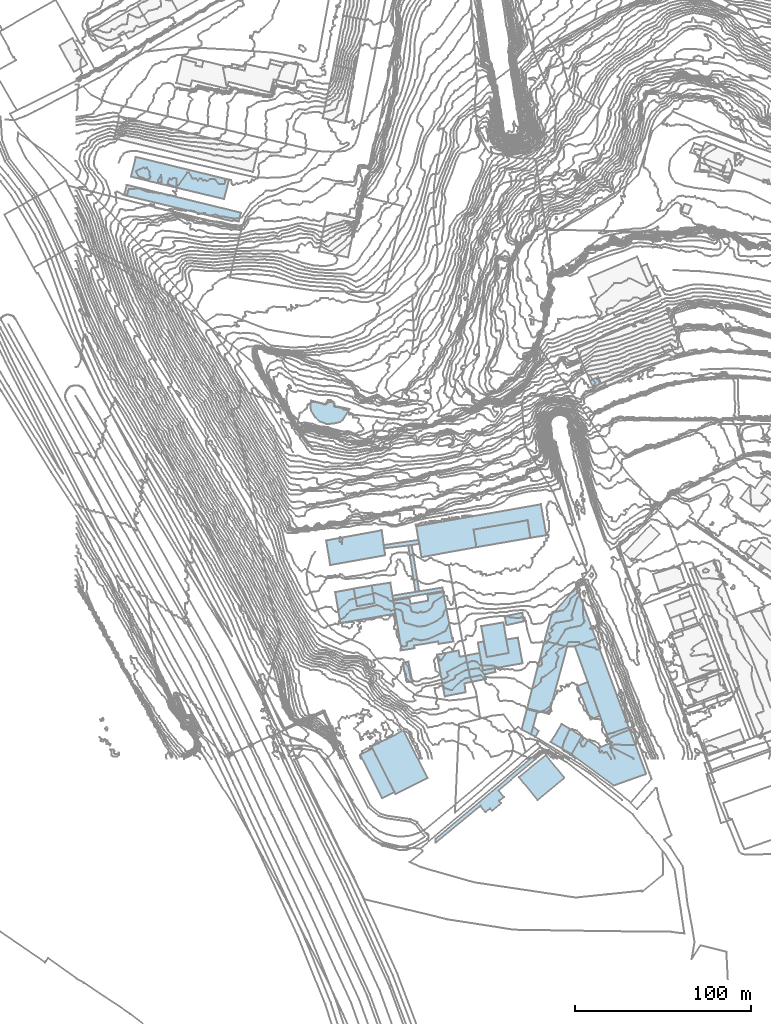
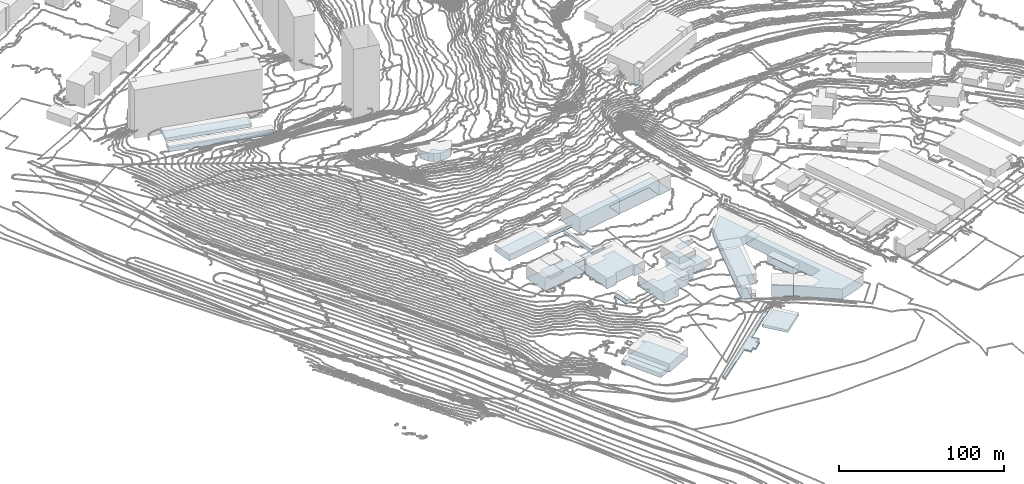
# Not in any storey, part 1 of 419: 30 footings.
"""IFC2X3 model written with IfcOpenShell, lengths in metres."""

from ifc_helpers import new_model, si_unit, frame, origin_with_axes, place, context, subcontext, project, faceted_brep, element, save


model = new_model("IFC2X3")

# Units and contexts
model_context = context("Model", 3, precision=1e-05, world=origin_with_axes())
body_context = subcontext(model_context, "Body", "Model", "MODEL_VIEW")
ifc_project = project(units=[si_unit("AREAUNIT", "SQUARE_METRE"), si_unit("LENGTHUNIT", "METRE")], contexts=[model_context])

# Footings
footing_1_placement = place(None, frame((133.1920204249, 199.1976909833, 52.7420005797), z_axis=(0.0, 0.0, 1.0), x_axis=(1.0, 0.0, 0.0)))
element("IfcFooting", 1, at=footing_1_placement, Name="Sol 0", PredefinedType="STRIP_FOOTING", context=body_context, shape_type="Brep", body=[
    faceted_brep([(0.2999999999, -2.0, 0.0), (0.0, 0.0, 0.0), (0.3999999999, 3.2999999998, 0.0), (5.2999999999, -8.6000000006, 0.0), (2.7999999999, -6.4000000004, 0.0), (13.1, -9.8000000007, 0.0), (9.1, -10.0, 0.0), (18.5, -7.4000000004, 0.0), (16.7999999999, -8.9000000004, 0.0), (13.5, 0.2999999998, 0.0), (22.2, -1.5, 0.0), (11.3999999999, 3.5999999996, 0.0), (13.2, 2.5999999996, 0.0), (8.2999999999, 1.2999999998, 0.0), (9.8999999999, 3.5, 0.0)], [[[0, 1, 2]], [[3, 4, 0]], [[5, 6, 3]], [[7, 8, 5]], [[9, 10, 7]], [[11, 12, 9]], [[13, 14, 11]], [[0, 2, 13]], [[5, 3, 0]], [[9, 7, 5]], [[13, 11, 9]], [[5, 0, 13]], [[13, 9, 5]]]),
])
footing_2_placement = place(None, frame((188.8920204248, 120.0976909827, 24.4439993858), z_axis=(0.0, 0.0, 1.0), x_axis=(1.0, 0.0, 0.0)))
element("IfcFooting", 2, at=footing_2_placement, Name="Sol 0", PredefinedType="STRIP_FOOTING", context=body_context, shape_type="Brep", body=[
    faceted_brep([(2.0, 0.2000000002, 0.0), (6.2, -26.0, 0.0), (4.1, -26.2999999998, 0.0), (0.0, 0.0, 0.0)], [[[0, 1, 2]], [[2, 3, 0]]]),
])
footing_3_placement = place(None, frame((180.3920204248, 88.6976909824, 21.1200008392), z_axis=(0.0, 0.0, 1.0), x_axis=(1.0, 0.0, 0.0)))
element("IfcFooting", 3, at=footing_3_placement, Name="Sol 0", PredefinedType="STRIP_FOOTING", context=body_context, shape_type="Brep", body=[
    faceted_brep([(4.6, -27.5999999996, 0.0), (1.2999999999, -8.0999999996, 0.0), (0.0, 0.0, 0.0), (4.1, -28.3999999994, 0.0), (4.0, -27.7000000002, 0.0), (11.7999999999, -25.5999999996, 0.0), (12.0, -27.0999999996, 0.0), (34.2, -23.2999999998, 0.0), (25.7999999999, -24.7000000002, 0.0), (25.5, -23.2999999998, 0.0), (33.5, -21.5, 0.0), (33.8999999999, -21.3999999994, 0.0), (28.8999999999, 4.9000000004, 0.0), (29.0, 4.2000000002, 0.0), (28.5, 4.2000000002, 0.0), (19.7999999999, -0.0999999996, 0.0), (19.5, 3.2999999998, 0.0), (9.1, 1.5, 0.0), (9.8999999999, -1.8999999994, 0.0)], [[[0, 1, 2]], [[3, 4, 0]], [[5, 6, 3]], [[7, 8, 9]], [[10, 11, 7]], [[12, 13, 14]], [[15, 16, 12]], [[2, 17, 18]], [[5, 3, 0]], [[10, 7, 9]], [[15, 12, 14]], [[0, 2, 18]], [[10, 9, 5]], [[15, 14, 10]], [[0, 18, 15]], [[15, 10, 5]], [[5, 0, 15]]]),
])
footing_4_placement = place(None, frame((30.9920204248, 329.8976909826, 20.8107998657), z_axis=(0.0, 0.0, 1.0), x_axis=(1.0, 0.0, 0.0)))
element("IfcFooting", 4, at=footing_4_placement, Name="Sol 0", PredefinedType="STRIP_FOOTING", context=body_context, shape_type="Brep", body=[
    faceted_brep([(53.0, -12.7000000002, 0.0), (0.0, 0.0, 0.0), (2.7999999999, 11.2999999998, 0.0), (55.9, -1.7000000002, 0.0)], [[[0, 1, 2]], [[2, 3, 0]]]),
])
footing_5_placement = place(None, frame((258.6920204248, 12.3976909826, 17.0899996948), z_axis=(0.0, 0.0, 1.0), x_axis=(1.0, 0.0, 0.0)))
element("IfcFooting", 5, at=footing_5_placement, Name="Sol 0", PredefinedType="STRIP_FOOTING", context=body_context, shape_type="Brep", body=[
    faceted_brep([(4.3, 2.0, 0.0), (2.5, -1.2000000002, 0.0), (0.0, 0.0, 0.0), (1.3, 4.5, 0.0)], [[[0, 1, 2]], [[2, 3, 0]]]),
])
footing_6_placement = place(None, frame((182.3920204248, 15.2976909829, 10.0691999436), z_axis=(0.0, 0.0, 1.0), x_axis=(1.0, 0.0, 0.0)))
element("IfcFooting", 6, at=footing_6_placement, Name="Sol 0", PredefinedType="STRIP_FOOTING", context=body_context, shape_type="Brep", body=[
    faceted_brep([(2.2999999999, 1.1999999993, 0.0), (3.2999999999, -0.9000000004, 0.0), (1.0, -2.0, 0.0), (0.0, 0.0, 0.0)], [[[0, 1, 2]], [[2, 3, 0]]]),
])
footing_7_placement = place(None, frame((174.9920204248, 120.2976909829, 26.5487995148), z_axis=(0.0, 0.0, 1.0), x_axis=(1.0, 0.0, 0.0)))
element("IfcFooting", 7, at=footing_7_placement, Name="Sol 0", PredefinedType="STRIP_FOOTING", context=body_context, shape_type="Brep", body=[
    faceted_brep([(20.2, 0.6999999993, 0.0), (15.9, 0.0, 0.0), (0.2, -1.9000000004, 0.0), (0.0, 0.0, 0.0), (19.7, 2.8999999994, 0.0)], [[[0, 1, 2]], [[3, 4, 0]], [[0, 2, 3]]]),
])
footing_8_placement = place(None, frame((157.8920204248, 95.4976909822, 23.1267998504), z_axis=(0.0, 0.0, 1.0), x_axis=(1.0, 0.0, 0.0)))
element("IfcFooting", 8, at=footing_8_placement, Name="Sol 0", PredefinedType="STRIP_FOOTING", context=body_context, shape_type="Brep", body=[
    faceted_brep([(1.7999999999, -10.0, 0.0), (0.0, 0.0, 0.0), (10.2999999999, 1.8000000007, 0.0), (11.7999999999, -8.2999999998, 0.0)], [[[0, 1, 2]], [[2, 3, 0]]]),
])
footing_9_placement = place(None, frame((230.3920204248, 74.0976909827, 20.3390001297), z_axis=(0.0, 0.0, 1.0), x_axis=(1.0, 0.0, 0.0)))
element("IfcFooting", 9, at=footing_9_placement, Name="Sol 0", PredefinedType="STRIP_FOOTING", context=body_context, shape_type="Brep", body=[
    faceted_brep([(0.0, 0.0, 0.0), (12.7, 2.2000000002, 0.0), (14.2999999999, -7.6000000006, 0.0), (15.7, -15.2999999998, 0.0), (3.2, -17.5, 0.0)], [[[0, 1, 2]], [[3, 4, 0]], [[0, 2, 3]]]),
])
footing_10_placement = place(None, frame((161.5920204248, 0.8976909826, 10.0303997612), z_axis=(0.0, 0.0, 1.0), x_axis=(1.0, 0.0, 0.0)))
element("IfcFooting", 10, at=footing_10_placement, Name="Sol 0", PredefinedType="STRIP_FOOTING", context=body_context, shape_type="Brep", body=[
    faceted_brep([(6.9, 3.7000000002, 0.0), (19.5, -21.2000000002, 0.0), (12.5, -24.7000000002, 0.0), (0.0, 0.0, 0.0)], [[[0, 1, 2]], [[2, 3, 0]]]),
])
footing_11_placement = place(None, frame((292.3920204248, 213.8976909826, 42.5580001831), z_axis=(0.0, 0.0, 1.0), x_axis=(1.0, 0.0, 0.0)))
element("IfcFooting", 11, at=footing_11_placement, Name="Sol 0", PredefinedType="STRIP_FOOTING", context=body_context, shape_type="Brep", body=[
    faceted_brep([(1.7999999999, -3.7000000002, 0.0), (0.0, 0.0, 0.0), (4.6, 2.2000000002, 0.0), (6.3999999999, -1.5, 0.0)], [[[0, 1, 2]], [[2, 3, 0]]]),
])
footing_12_placement = place(None, frame((266.3920204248, 65.6976909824, 18.6400001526), z_axis=(0.0, 0.0, 1.0), x_axis=(1.0, 0.0, 0.0)))
element("IfcFooting", 12, at=footing_12_placement, Name="Sol 0", PredefinedType="STRIP_FOOTING", context=body_context, shape_type="Brep", body=[
    faceted_brep([(12.8999999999, -3.2999999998, 0.0), (0.0, 0.0, 0.0), (3.8999999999, 14.4000000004, 0.0), (29.2999999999, 1.2999999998, 0.0), (17.2999999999, -3.0, 0.0), (18.2, 31.2999999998, 0.0)], [[[0, 1, 2]], [[3, 4, 0]], [[2, 5, 3]], [[3, 0, 2]]]),
])
footing_13_placement = place(None, frame((269.9920204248, 8.0976909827, 17.6167998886), z_axis=(0.0, 0.0, 1.0), x_axis=(1.0, 0.0, 0.0)))
element("IfcFooting", 13, at=footing_13_placement, Name="Sol 0", PredefinedType="STRIP_FOOTING", context=body_context, shape_type="Brep", body=[
    faceted_brep([(17.6, 3.3999999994, 0.0), (11.7, -6.9000000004, 0.0), (0.0, 0.0, 0.0), (6.1, 10.2999999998, 0.0)], [[[0, 1, 2]], [[2, 3, 0]]]),
])
footing_14_placement = place(None, frame((256.4920204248, 27.2976909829, 17.81629982), z_axis=(0.0, 0.0, 1.0), x_axis=(1.0, 0.0, 0.0)))
element("IfcFooting", 14, at=footing_14_placement, Name="Sol 0", PredefinedType="STRIP_FOOTING", context=body_context, shape_type="Brep", body=[
    faceted_brep([(12.4, -3.2000000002, 0.0), (0.0, 0.0, 0.0), (9.9, 38.3999999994, 0.0), (22.7999999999, 35.0999999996, 0.0)], [[[0, 1, 2]], [[2, 3, 0]]]),
])
footing_15_placement = place(None, frame((285.3920204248, 40.0976909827, 17.896000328), z_axis=(0.0, 0.0, 1.0), x_axis=(1.0, 0.0, 0.0)))
element("IfcFooting", 15, at=footing_15_placement, Name="Sol 0", PredefinedType="STRIP_FOOTING", context=body_context, shape_type="Brep", body=[
    faceted_brep([(0.0, 0.0, 0.0), (5.7, 2.2999999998, 0.0), (12.6, -17.0, 0.0), (7.2999999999, -19.1000000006, 0.0)], [[[0, 1, 2]], [[2, 3, 0]]]),
])
footing_16_placement = place(None, frame((253.3920204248, 15.1976909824, 17.2552001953), z_axis=(0.0, 0.0, 1.0), x_axis=(1.0, 0.0, 0.0)))
element("IfcFooting", 16, at=footing_16_placement, Name="Sol 0", PredefinedType="STRIP_FOOTING", context=body_context, shape_type="Brep", body=[
    faceted_brep([(8.8999999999, 10.7000000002, 0.0), (6.6, 1.7000000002, 0.0), (5.2999999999, -2.7999999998, 0.0), (0.0, 0.0, 0.0), (3.1, 12.1000000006, 0.0)], [[[0, 1, 2]], [[3, 4, 0]], [[0, 2, 3]]]),
])
footing_17_placement = place(None, frame((226.0920204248, 129.0976909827, 26.2239994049), z_axis=(0.0, 0.0, 1.0), x_axis=(1.0, 0.0, 0.0)))
element("IfcFooting", 17, at=footing_17_placement, Name="Sol 0", PredefinedType="STRIP_FOOTING", context=body_context, shape_type="Brep", body=[
    faceted_brep([(32.3, -4.7000000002, 0.0), (1.6, -10.0, 0.0), (0.0, 0.0, 0.0), (30.8, 5.2999999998, 0.0)], [[[0, 1, 2]], [[2, 3, 0]]]),
])
footing_18_placement = place(None, frame((251.8920204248, -11.7023090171, 13.2014000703), z_axis=(0.0, 0.0, 1.0), x_axis=(1.0, 0.0, 0.0)))
element("IfcFooting", 18, at=footing_18_placement, Name="Sol 0", PredefinedType="STRIP_FOOTING", context=body_context, shape_type="Brep", body=[
    faceted_brep([(25.7999999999, -0.4000000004, 0.0), (10.7, -13.1000000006, 0.0), (0.0, 0.0, 0.0), (15.3999999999, 12.5, 0.0)], [[[0, 1, 2]], [[2, 3, 0]]]),
])
footing_19_placement = place(None, frame((228.4920204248, 64.7976909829, 19.5300000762), z_axis=(0.0, 0.0, 1.0), x_axis=(1.0, 0.0, 0.0)))
element("IfcFooting", 19, at=footing_19_placement, Name="Sol 0", PredefinedType="STRIP_FOOTING", context=body_context, shape_type="Brep", body=[
    faceted_brep([(17.6, -6.0, 0.0), (16.2, 1.6999999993, 0.0), (22.7999999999, 2.7999999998, 0.0), (0.0, 0.0, 0.0), (3.2999999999, 0.5999999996, 0.0), (5.1, -8.2000000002, 0.0), (25.5, -11.8000000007, 0.0), (2.9, -15.8000000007, 0.0)], [[[0, 1, 2]], [[3, 4, 5]], [[0, 2, 6]], [[7, 3, 5]], [[0, 6, 7]], [[7, 5, 0]]]),
])
footing_20_placement = place(None, frame((167.9920204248, 5.6976909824, 10.0228000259), z_axis=(0.0, 0.0, 1.0), x_axis=(1.0, 0.0, 0.0)))
element("IfcFooting", 20, at=footing_20_placement, Name="Sol 0", PredefinedType="STRIP_FOOTING", context=body_context, shape_type="Brep", body=[
    faceted_brep([(18.2999999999, 9.0, 0.0), (31.9, -17.8999999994, 0.0), (31.5, -18.0999999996, 0.0), (13.6, -27.0999999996, 0.0), (0.0, 0.0, 0.0)], [[[0, 1, 2]], [[3, 4, 0]], [[0, 2, 3]]]),
])
footing_21_placement = place(None, frame((27.1920204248, 319.3976909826, 20.8730007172), z_axis=(0.0, 0.0, 1.0), x_axis=(1.0, 0.0, 0.0)))
element("IfcFooting", 21, at=footing_21_placement, Name="Sol 0", PredefinedType="STRIP_FOOTING", context=body_context, shape_type="Brep", body=[
    faceted_brep([(61.5, -14.7999999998, 0.0), (0.0, 0.0, 0.0), (1.4, 5.9000000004, 0.0), (66.4, -10.0, 0.0), (65.2000000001, -14.9000000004, 0.0), (62.0, -14.2999999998, 0.0)], [[[0, 1, 2]], [[3, 4, 5]], [[5, 0, 2]], [[2, 3, 5]]]),
])
footing_22_placement = place(None, frame((243.7920204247, 79.7976909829, 20.529400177), z_axis=(0.0, 0.0, 1.0), x_axis=(1.0, 0.0, 0.0)))
element("IfcFooting", 22, at=footing_22_placement, Name="Sol 0", PredefinedType="STRIP_FOOTING", context=body_context, shape_type="Brep", body=[
    faceted_brep([(1.0, -5.1000000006, 0.0), (0.0, 0.0, 0.0), (10.0, 2.0, 0.0), (10.9, -2.9000000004, 0.0)], [[[0, 1, 2]], [[2, 3, 0]]]),
])
footing_23_placement = place(None, frame((204.3920204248, -46.9023090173, 13.6460001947), z_axis=(0.0, 0.0, 1.0), x_axis=(1.0, 0.0, 0.0)))
element("IfcFooting", 23, at=footing_23_placement, Name="Sol 0", PredefinedType="STRIP_FOOTING", context=body_context, shape_type="Brep", body=[
    faceted_brep([(59.2999999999, 50.0, 0.0), (61.2, 49.0, 0.0), (35.7999999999, 27.5999999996, 0.0), (0.1, -2.2000000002, 0.0), (0.0, 0.0, 0.0), (31.0, 17.2999999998, 0.0), (28.3999999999, 15.2000000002, 0.0), (25.5, 18.8999999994, 0.0), (37.2, 20.2999999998, 0.0), (32.1, 16.0, 0.0), (38.8999999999, 23.7999999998, 0.0), (36.1, 21.7000000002, 0.0)], [[[0, 1, 2]], [[3, 4, 0]], [[5, 6, 7]], [[8, 9, 5]], [[2, 10, 11]], [[3, 0, 2]], [[8, 5, 7]], [[7, 3, 2]], [[11, 8, 7]], [[7, 2, 11]]]),
])
footing_24_placement = place(None, frame((179.8920204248, 91.4976909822, 24.266900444), z_axis=(0.0, 0.0, 1.0), x_axis=(1.0, 0.0, 0.0)))
element("IfcFooting", 24, at=footing_24_placement, Name="Sol 0", PredefinedType="STRIP_FOOTING", context=body_context, shape_type="Brep", body=[
    faceted_brep([(28.7999999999, 2.6000000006, 0.0), (0.3999999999, -2.1999999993, 0.0), (0.0, 0.0, 0.0), (28.3999999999, 4.6000000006, 0.0)], [[[0, 1, 2]], [[2, 3, 0]]]),
])
footing_25_placement = place(None, frame((142.1920204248, 122.8976909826, 26.5680005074), z_axis=(0.0, 0.0, 1.0), x_axis=(1.0, 0.0, 0.0)))
element("IfcFooting", 25, at=footing_25_placement, Name="Sol 0", PredefinedType="STRIP_FOOTING", context=body_context, shape_type="Brep", body=[
    faceted_brep([(0.0, 0.0, 0.0), (31.6, 5.7999999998, 0.0), (33.0, -4.5, 0.0), (33.6, -8.4000000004, 0.0), (2.3, -14.0, 0.0)], [[[0, 1, 2]], [[3, 4, 0]], [[0, 2, 3]]]),
])
footing_26_placement = place(None, frame((185.8920204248, 53.1976909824, 19.6990001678), z_axis=(0.0, 0.0, 1.0), x_axis=(1.0, 0.0, 0.0)))
element("IfcFooting", 26, at=footing_26_placement, Name="Sol 0", PredefinedType="STRIP_FOOTING", context=body_context, shape_type="Brep", body=[
    faceted_brep([(2.2, -11.0, 0.0), (1.7999999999, -9.7000000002, 0.0), (0.0, 0.0, 0.0), (3.1, 0.7999999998, 0.0), (5.3999999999, -10.7999999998, 0.0)], [[[0, 1, 2]], [[3, 4, 0]], [[0, 2, 3]]]),
])
footing_27_placement = place(None, frame((193.3920204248, 130.9976909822, 26.0479995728), z_axis=(0.0, 0.0, 1.0), x_axis=(1.0, 0.0, 0.0)))
element("IfcFooting", 27, at=footing_27_placement, Name="Sol 0", PredefinedType="STRIP_FOOTING", context=body_context, shape_type="Brep", body=[
    faceted_brep([(34.2999999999, -11.8999999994, 0.0), (3.0, -17.5999999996, 0.0), (1.7999999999, -10.0, 0.0), (74.1, -5.0999999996, 0.0), (65.0, -6.5999999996, 0.0), (63.5, 3.4000000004, 0.0), (0.0, 0.0, 0.0), (71.0, 12.5, 0.0), (32.7, -1.8999999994, 0.0)], [[[0, 1, 2]], [[3, 4, 5]], [[2, 6, 7]], [[8, 0, 2]], [[7, 3, 5]], [[8, 2, 7]], [[7, 5, 8]]]),
])
footing_28_placement = place(None, frame((205.2920204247, 57.8976909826, 17.6740001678), z_axis=(0.0, 0.0, 1.0), x_axis=(1.0, 0.0, 0.0)))
element("IfcFooting", 28, at=footing_28_placement, Name="Sol 0", PredefinedType="STRIP_FOOTING", context=body_context, shape_type="Brep", body=[
    faceted_brep([(12.9, -1.2000000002, 0.0), (24.3, 1.0, 0.0), (26.1000000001, -8.9000000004, 0.0), (0.0, 0.0, 0.0), (12.3, 2.4000000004, 0.0), (16.2000000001, -21.4000000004, 0.0), (4.4, -23.7000000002, 0.0), (27.0, -11.2000000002, 0.0), (27.8, -13.7999999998, 0.0), (15.6000000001, -16.2999999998, 0.0), (32.7000000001, -7.7000000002, 0.0), (33.3, -9.7999999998, 0.0)], [[[0, 1, 2]], [[3, 4, 0]], [[5, 6, 3]], [[7, 8, 9]], [[10, 11, 7]], [[3, 0, 2]], [[9, 5, 3]], [[10, 7, 9]], [[9, 3, 2]], [[2, 10, 9]]]),
])
footing_29_placement = place(None, frame((147.2920204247, 93.4976909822, 22.1154997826), z_axis=(0.0, 0.0, 1.0), x_axis=(1.0, 0.0, 0.0)))
element("IfcFooting", 29, at=footing_29_placement, Name="Sol 0", PredefinedType="STRIP_FOOTING", context=body_context, shape_type="Brep", body=[
    faceted_brep([(31.4, 5.4000000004, 0.0), (34.4, -12.8999999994, 0.0), (33.8, -13.0, 0.0), (22.4, -6.2999999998, 0.0), (20.9, 3.8000000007, 0.0), (0.0, 0.0, 0.0), (10.6000000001, 2.0, 0.0), (12.4, -8.0, 0.0), (33.6000000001, -12.3999999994, 0.0), (3.0, -17.5999999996, 0.0)], [[[0, 1, 2]], [[3, 4, 0]], [[5, 6, 7]], [[0, 2, 8]], [[9, 5, 7]], [[3, 0, 8]], [[9, 7, 3]], [[3, 8, 9]]]),
])
footing_30_placement = place(None, frame((281.6920204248, 1.1976909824, 17.9139993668), z_axis=(0.0, 0.0, 1.0), x_axis=(1.0, 0.0, 0.0)))
element("IfcFooting", 30, at=footing_30_placement, Name="Sol 0", PredefinedType="STRIP_FOOTING", context=body_context, shape_type="Brep", body=[
    faceted_brep([(22.1, 6.2999999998, 0.0), (2.0, 61.5, 0.0), (14.0, 65.7999999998, 0.0), (0.0, 0.0, 0.0), (5.9, 10.2999999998, 0.0), (15.6, 3.6000000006, 0.0), (41.9, -11.3999999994, 0.0), (24.0, -17.7999999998, 0.0), (42.6, -11.0, 0.0)], [[[0, 1, 2]], [[3, 4, 5]], [[6, 7, 3]], [[2, 8, 6]], [[6, 3, 5]], [[0, 2, 6]], [[6, 5, 0]]]),
])

save(model, "model.ifc")
